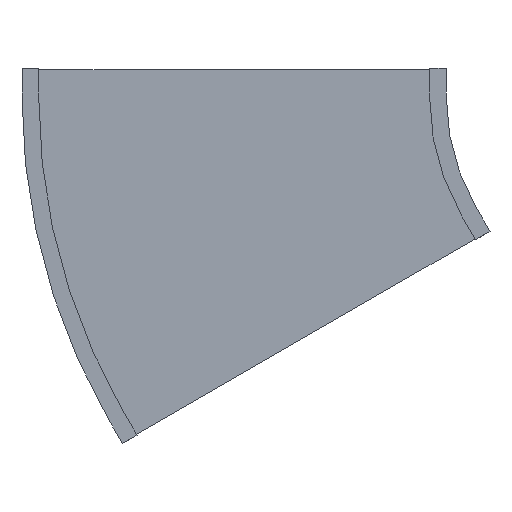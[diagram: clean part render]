
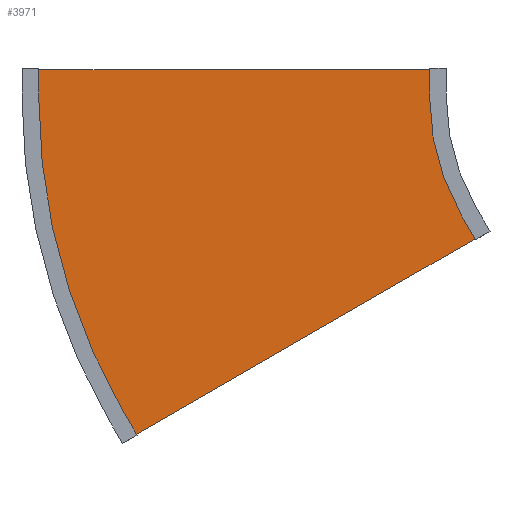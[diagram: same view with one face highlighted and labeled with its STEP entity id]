
A CAD part, front view. The second image highlights one B-rep face of the part: STEP entity #3971.
In plain terms, the highlighted planar face has unit normal (0, -1, 0).
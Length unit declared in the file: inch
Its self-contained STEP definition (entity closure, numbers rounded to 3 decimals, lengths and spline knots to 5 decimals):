
#3816=DIRECTION('',(0.,0.,1.));
#3817=VECTOR('',#3816,41.875);
#3818=CARTESIAN_POINT('',(-2.875,0.,-20.9375));
#3819=LINE('',#3818,#3817);
#3820=DIRECTION('',(1.,0.,0.));
#3821=VECTOR('',#3820,2.875);
#3822=CARTESIAN_POINT('',(-2.875,0.,20.9375));
#3823=LINE('',#3822,#3821);
#3824=CARTESIAN_POINT('',(0.,0.,45.11));
#3825=DIRECTION('',(0.,-1.,0.));
#3826=DIRECTION('',(0.,0.,-1.));
#3827=AXIS2_PLACEMENT_3D('',#3824,#3825,#3826);
#3829=DIRECTION('',(0.866,0.,0.5));
#3830=VECTOR('',#3829,2.875);
#3831=CARTESIAN_POINT('',(12.08625,0.,24.176));
#3832=LINE('',#3831,#3830);
#3833=DIRECTION('',(0.5,0.,-0.866));
#3834=VECTOR('',#3833,41.875);
#3835=CARTESIAN_POINT('',(14.57607,0.,25.6135));
#3836=LINE('',#3835,#3834);
#3837=DIRECTION('',(-0.866,0.,-0.5));
#3838=VECTOR('',#3837,2.875);
#3839=CARTESIAN_POINT('',(35.51357,0.,-10.65131));
#3840=LINE('',#3839,#3838);
#3841=CARTESIAN_POINT('',(0.,0.,45.11));
#3842=DIRECTION('',(0.,1.,0.));
#3843=DIRECTION('',(0.5,0.,-0.866));
#3844=AXIS2_PLACEMENT_3D('',#3841,#3842,#3843);
#3846=DIRECTION('',(-1.,0.,0.));
#3847=VECTOR('',#3846,2.875);
#3848=CARTESIAN_POINT('',(0.,0.,-20.9375));
#3849=LINE('',#3848,#3847);
#3916=CARTESIAN_POINT('',(-2.875,0.,-20.9375));
#3917=CARTESIAN_POINT('',(-2.875,0.,20.9375));
#3918=VERTEX_POINT('',#3916);
#3919=VERTEX_POINT('',#3917);
#3920=CARTESIAN_POINT('',(0.,0.,20.9375));
#3921=VERTEX_POINT('',#3920);
#3922=CARTESIAN_POINT('',(12.08625,0.,24.176));
#3923=VERTEX_POINT('',#3922);
#3924=CARTESIAN_POINT('',(14.57607,0.,25.6135));
#3925=VERTEX_POINT('',#3924);
#3926=CARTESIAN_POINT('',(35.51357,0.,-10.65131));
#3927=VERTEX_POINT('',#3926);
#3928=CARTESIAN_POINT('',(33.02375,0.,-12.08881));
#3929=VERTEX_POINT('',#3928);
#3930=CARTESIAN_POINT('',(0.,0.,-20.9375));
#3931=VERTEX_POINT('',#3930);
#3948=CARTESIAN_POINT('',(0.,0.,0.));
#3949=DIRECTION('',(0.,1.,0.));
#3950=DIRECTION('',(1.,0.,0.));
#3951=AXIS2_PLACEMENT_3D('',#3948,#3949,#3950);
#3952=PLANE('',#3951);
#3954=ORIENTED_EDGE('',*,*,#3953,.T.);
#3956=ORIENTED_EDGE('',*,*,#3955,.T.);
#3958=ORIENTED_EDGE('',*,*,#3957,.T.);
#3960=ORIENTED_EDGE('',*,*,#3959,.T.);
#3962=ORIENTED_EDGE('',*,*,#3961,.T.);
#3964=ORIENTED_EDGE('',*,*,#3963,.T.);
#3966=ORIENTED_EDGE('',*,*,#3965,.T.);
#3968=ORIENTED_EDGE('',*,*,#3967,.T.);
#3969=EDGE_LOOP('',(#3954,#3956,#3958,#3960,#3962,#3964,#3966,#3968));
#3970=FACE_OUTER_BOUND('',#3969,.F.);
#3971=ADVANCED_FACE('',(#3970),#3952,.F.);
#3828=CIRCLE('',#3827,24.1725);
#3845=CIRCLE('',#3844,66.0475);
#3953=EDGE_CURVE('',#3918,#3919,#3819,.T.);
#3955=EDGE_CURVE('',#3919,#3921,#3823,.T.);
#3957=EDGE_CURVE('',#3921,#3923,#3828,.T.);
#3959=EDGE_CURVE('',#3923,#3925,#3832,.T.);
#3961=EDGE_CURVE('',#3925,#3927,#3836,.T.);
#3963=EDGE_CURVE('',#3927,#3929,#3840,.T.);
#3965=EDGE_CURVE('',#3929,#3931,#3845,.T.);
#3967=EDGE_CURVE('',#3931,#3918,#3849,.T.);
